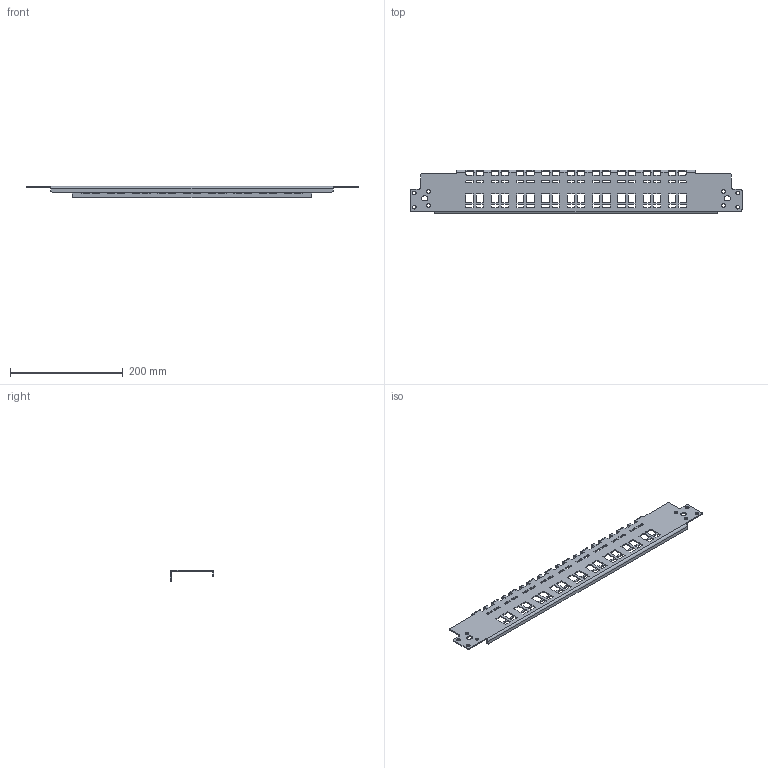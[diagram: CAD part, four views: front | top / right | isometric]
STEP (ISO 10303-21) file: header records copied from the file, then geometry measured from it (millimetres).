
FILE_DESCRIPTION (( 'STEP AP214' ), '1' );
FILE_NAME ('KRD 60 ÅÌÑ Ðåéêà êàáåëüíàÿ ñ êîíòàêòîì ÅÌÑ.STEP', '2025-10-02T08:50:24', ( '' ), ( '' ), 'SwSTEP 2.0', 'SolidWorks 2019', '' );
FILE_SCHEMA (( 'AUTOMOTIVE_DESIGN' ));
Length unit declared in the file: millimetre
Products named in the file (1): KRD 60 ÅÌÑ Ðåéêà êàáåëüíàÿ ñ êîíòàêòîì ÅÌÑ
Bounding box: 590 x 78 x 20 mm (x, y, z)
Volume: 86733.4 mm3; surface area: 96711.3 mm2
Topology: 1 solids, 1 shells, 722 faces, 2108 edges, 1352 vertices
Faces by surface type: plane 394, cylinder 328
Entity records: 24190 total; most frequent: ORIENTED_EDGE 4216, DIRECTION 4210, CARTESIAN_POINT 4183, EDGE_CURVE 2108, LINE 1452, VECTOR 1452, AXIS2_PLACEMENT_3D 1379, VERTEX_POINT 1352
